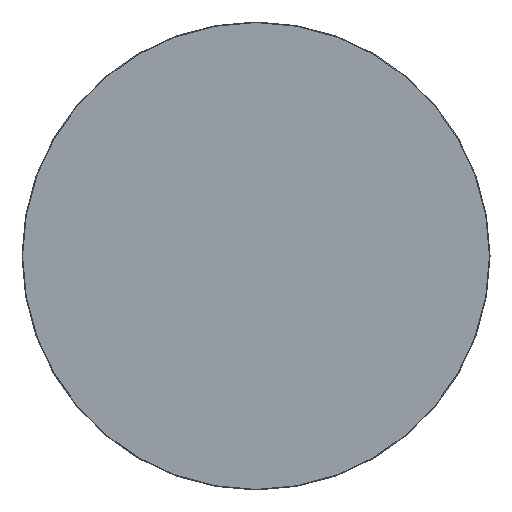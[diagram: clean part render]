
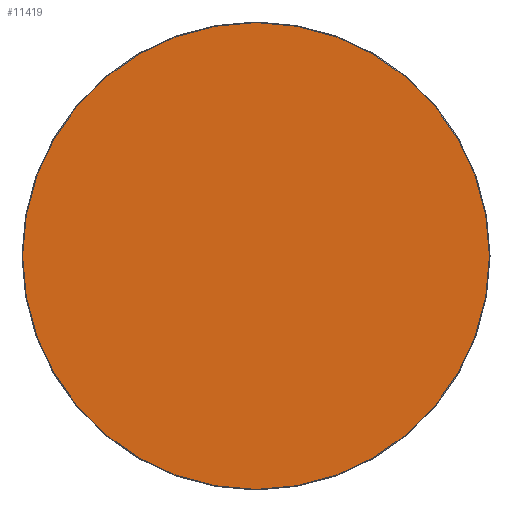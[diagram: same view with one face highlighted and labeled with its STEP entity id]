
A CAD part, top view. The second image highlights one B-rep face of the part: STEP entity #11419.
In plain terms, the highlighted planar face has unit normal (0, 0, 1).
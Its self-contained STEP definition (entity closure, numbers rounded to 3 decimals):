
#11344=CARTESIAN_POINT('',(0.,0.,20.));
#11345=DIRECTION('',(1.,0.,0.));
#11346=DIRECTION('',(0.,0.,1.));
#11347=AXIS2_PLACEMENT_3D('',#11344,#11346,#11345);
#11348=PLANE('',#11347);
#11349=CARTESIAN_POINT('',(-0.5,-548.5,20.));
#11350=VERTEX_POINT('',#11349);
#11351=CARTESIAN_POINT('',(0.5,-548.5,20.));
#11352=VERTEX_POINT('',#11351);
#11353=CARTESIAN_POINT('',(-0.5,-548.5,20.));
#11354=DIRECTION('',(1.,0.,0.));
#11355=VECTOR('',#11354,1.);
#11356=LINE('',#11353,#11355);
#11357=EDGE_CURVE('',#11350,#11352,#11356,.T.);
#11358=ORIENTED_EDGE('E105',*,*,#11357,.T.);
#11359=CARTESIAN_POINT('',(548.5,-0.5,20.));
#11360=VERTEX_POINT('',#11359);
#11361=CARTESIAN_POINT('',(0.5,-0.5,20.));
#11362=DIRECTION('',(0.,-1.,0.));
#11363=DIRECTION('',(0.,0.,1.));
#11364=AXIS2_PLACEMENT_3D('',#11361,#11363,#11362);
#11365=CIRCLE('',#11364,548.);
#11366=EDGE_CURVE('',#11352,#11360,#11365,.T.);
#11367=ORIENTED_EDGE('E107',*,*,#11366,.T.);
#11368=CARTESIAN_POINT('',(548.5,0.5,20.));
#11369=VERTEX_POINT('',#11368);
#11370=CARTESIAN_POINT('',(548.5,-0.5,20.));
#11371=DIRECTION('',(0.,1.,0.));
#11372=VECTOR('',#11371,1.);
#11373=LINE('',#11370,#11372);
#11374=EDGE_CURVE('',#11360,#11369,#11373,.T.);
#11375=ORIENTED_EDGE('E109',*,*,#11374,.T.);
#11376=CARTESIAN_POINT('',(0.5,548.5,20.));
#11377=VERTEX_POINT('',#11376);
#11378=CARTESIAN_POINT('',(0.5,0.5,20.));
#11379=DIRECTION('',(1.,0.,0.));
#11380=DIRECTION('',(0.,0.,1.));
#11381=AXIS2_PLACEMENT_3D('',#11378,#11380,#11379);
#11382=CIRCLE('',#11381,548.);
#11383=EDGE_CURVE('',#11369,#11377,#11382,.T.);
#11384=ORIENTED_EDGE('E111',*,*,#11383,.T.);
#11385=CARTESIAN_POINT('',(-0.5,548.5,20.));
#11386=VERTEX_POINT('',#11385);
#11387=CARTESIAN_POINT('',(0.5,548.5,20.));
#11388=DIRECTION('',(-1.,0.,0.));
#11389=VECTOR('',#11388,1.);
#11390=LINE('',#11387,#11389);
#11391=EDGE_CURVE('',#11377,#11386,#11390,.T.);
#11392=ORIENTED_EDGE('E113',*,*,#11391,.T.);
#11393=CARTESIAN_POINT('',(-548.5,0.5,20.));
#11394=VERTEX_POINT('',#11393);
#11395=CARTESIAN_POINT('',(-0.5,0.5,20.));
#11396=DIRECTION('',(0.,1.,0.));
#11397=DIRECTION('',(0.,0.,1.));
#11398=AXIS2_PLACEMENT_3D('',#11395,#11397,#11396);
#11399=CIRCLE('',#11398,548.);
#11400=EDGE_CURVE('',#11386,#11394,#11399,.T.);
#11401=ORIENTED_EDGE('E115',*,*,#11400,.T.);
#11402=CARTESIAN_POINT('',(-548.5,-0.5,20.));
#11403=VERTEX_POINT('',#11402);
#11404=CARTESIAN_POINT('',(-548.5,0.5,20.));
#11405=DIRECTION('',(0.,-1.,0.));
#11406=VECTOR('',#11405,1.);
#11407=LINE('',#11404,#11406);
#11408=EDGE_CURVE('',#11394,#11403,#11407,.T.);
#11409=ORIENTED_EDGE('E117',*,*,#11408,.T.);
#11410=CARTESIAN_POINT('',(-0.5,-0.5,20.));
#11411=DIRECTION('',(-1.,0.,0.));
#11412=DIRECTION('',(0.,0.,1.));
#11413=AXIS2_PLACEMENT_3D('',#11410,#11412,#11411);
#11414=CIRCLE('',#11413,548.);
#11415=EDGE_CURVE('',#11403,#11350,#11414,.T.);
#11416=ORIENTED_EDGE('E119',*,*,#11415,.T.);
#11417=EDGE_LOOP('',(#11358,#11367,#11375,#11384,#11392,#11401,#11409,#11416));
#11418=FACE_OUTER_BOUND('',#11417,.T.);
#11419=ADVANCED_FACE('F2',(#11418),#11348,.T.);
